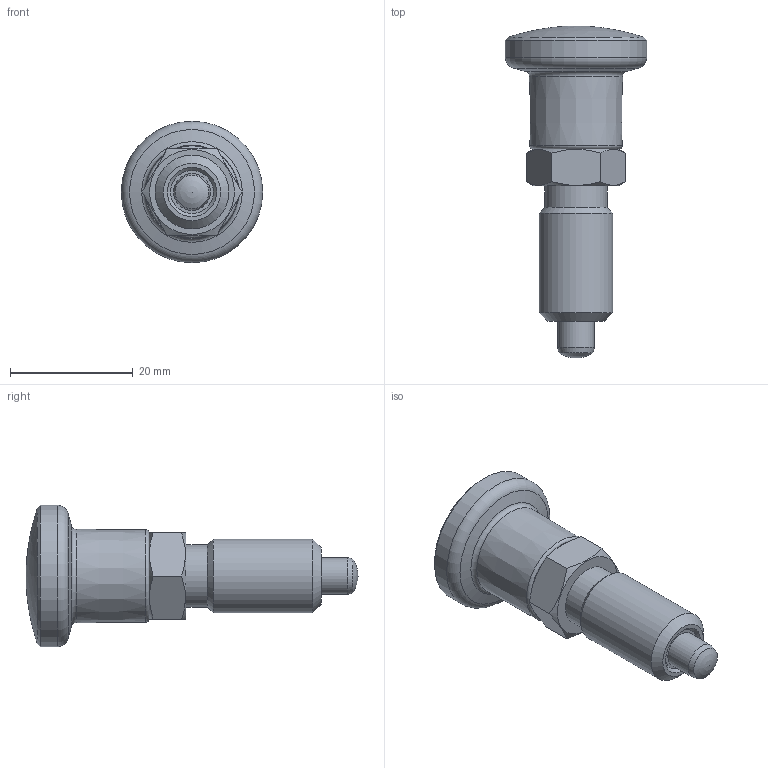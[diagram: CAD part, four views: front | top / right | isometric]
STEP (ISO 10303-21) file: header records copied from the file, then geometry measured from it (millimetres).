
FILE_DESCRIPTION( ( 'STEP AP203' ), '1' );
FILE_NAME( 'C:/Temp/Ganter_Step_05_03_2020/data/3_1/gn817/gn817_ni-rastbolzen_rot/Stainless steel-Indexing plunger GN 817-6-6-B-NI-RT (deactivated).stp', '2020-03-12T09:00:15', ( 'License CC BY-ND 4.0' ), ( 'CADENAS' ), ' ', 'PARTsolutions', ' ' );
FILE_SCHEMA( ( 'CONFIG_CONTROL_DESIGN' ) );
Length unit declared in the file: millimetre
Products named in the file (4): Stainless steel-Indexing plunger GN 817-6-6-B-NI-RT (deactivated); _Stainless steel-Indexing plunger GN 817-6-6-B-NI-RT (deactivated)-d; _Stainless steel-Indexing plunger GN 817-6-6-B-NI-RT-2; _Stainless Steel Indexing plunger GN 817-6-6-B-NI-RT-1
Assembly tree (3 placements, depth 2):
  Stainless steel-Indexing plunger GN 817-6-6-B-NI-RT (deactivated)
    _Stainless steel-Indexing plunger GN 817-6-6-B-NI-RT (deactivated)-d
    _Stainless steel-Indexing plunger GN 817-6-6-B-NI-RT-2
    _Stainless Steel Indexing plunger GN 817-6-6-B-NI-RT-1
Bounding box: 23 x 54 x 23 mm (x, y, z)
Volume: 8164.7 mm3; surface area: 4357.5 mm2
Topology: 2 solids, 2 shells, 38 faces, 76 edges, 46 vertices
Faces by surface type: plane 13, cone 10, cylinder 8, torus 5, bspline 1, sphere 1
Full cylindrical faces by diameter (mm): 5 x2, 6 x1, 7 x2, 10.1 x1, 12 x1, 23 x1
Entity records: 1098 total; most frequent: CARTESIAN_POINT 286, DIRECTION 148, ORIENTED_EDGE 96, AXIS2_PLACEMENT_3D 71, EDGE_LOOP 68, FACE_OUTER_BOUND 51, EDGE_CURVE 48, VERTEX_POINT 44
